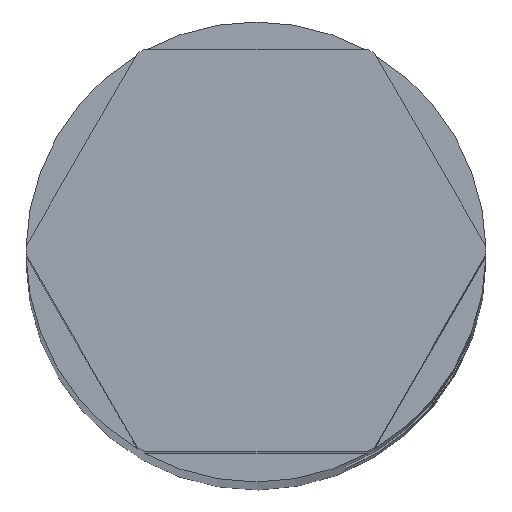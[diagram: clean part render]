
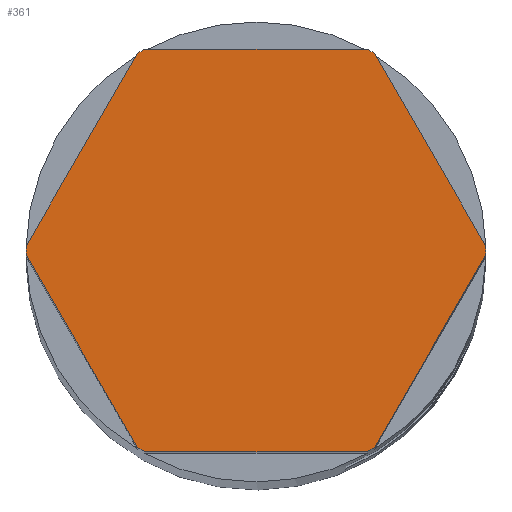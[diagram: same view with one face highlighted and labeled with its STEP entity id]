
A CAD part, top view. The second image highlights one B-rep face of the part: STEP entity #361.
In plain terms, the highlighted planar face has unit normal (0, 0, 1).
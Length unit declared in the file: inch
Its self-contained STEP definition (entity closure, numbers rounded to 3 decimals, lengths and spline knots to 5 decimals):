
#25=CIRCLE('',#384,0.25);
#26=CIRCLE('',#385,0.25);
#27=CIRCLE('',#386,0.25);
#28=CIRCLE('',#387,0.25);
#29=CIRCLE('',#388,0.25);
#30=CIRCLE('',#389,0.25);
#52=FACE_OUTER_BOUND('',#74,.T.);
#74=EDGE_LOOP('',(#311,#312,#313,#314,#315,#316,#317,#318,#319,#320,#321,
#322));
#76=LINE('',#511,#110);
#80=LINE('',#520,#114);
#84=LINE('',#529,#118);
#88=LINE('',#538,#122);
#92=LINE('',#547,#126);
#97=LINE('',#570,#131);
#110=VECTOR('',#404,0.24206);
#114=VECTOR('',#410,0.24206);
#118=VECTOR('',#416,0.24206);
#122=VECTOR('',#422,0.24206);
#126=VECTOR('',#428,0.24206);
#131=VECTOR('',#459,0.24206);
#143=VERTEX_POINT('',#507);
#145=VERTEX_POINT('',#510);
#147=VERTEX_POINT('',#516);
#149=VERTEX_POINT('',#519);
#151=VERTEX_POINT('',#525);
#153=VERTEX_POINT('',#528);
#155=VERTEX_POINT('',#534);
#157=VERTEX_POINT('',#537);
#159=VERTEX_POINT('',#543);
#161=VERTEX_POINT('',#546);
#165=VERTEX_POINT('',#567);
#166=VERTEX_POINT('',#569);
#177=EDGE_CURVE('',#145,#143,#76,.T.);
#181=EDGE_CURVE('',#149,#147,#80,.T.);
#185=EDGE_CURVE('',#153,#151,#84,.T.);
#189=EDGE_CURVE('',#157,#155,#88,.T.);
#193=EDGE_CURVE('',#161,#159,#92,.T.);
#204=EDGE_CURVE('',#166,#165,#97,.T.);
#207=EDGE_CURVE('',#165,#145,#25,.T.);
#208=EDGE_CURVE('',#159,#166,#26,.T.);
#209=EDGE_CURVE('',#155,#161,#27,.T.);
#210=EDGE_CURVE('',#151,#157,#28,.T.);
#211=EDGE_CURVE('',#147,#153,#29,.T.);
#212=EDGE_CURVE('',#143,#149,#30,.T.);
#311=ORIENTED_EDGE('',*,*,#177,.T.);
#312=ORIENTED_EDGE('',*,*,#212,.T.);
#313=ORIENTED_EDGE('',*,*,#181,.T.);
#314=ORIENTED_EDGE('',*,*,#211,.T.);
#315=ORIENTED_EDGE('',*,*,#185,.T.);
#316=ORIENTED_EDGE('',*,*,#210,.T.);
#317=ORIENTED_EDGE('',*,*,#189,.T.);
#318=ORIENTED_EDGE('',*,*,#209,.T.);
#319=ORIENTED_EDGE('',*,*,#193,.T.);
#320=ORIENTED_EDGE('',*,*,#208,.T.);
#321=ORIENTED_EDGE('',*,*,#204,.T.);
#322=ORIENTED_EDGE('',*,*,#207,.T.);
#341=PLANE('',#398);
#361=ADVANCED_FACE('',(#52),#341,.T.);
#384=AXIS2_PLACEMENT_3D('',#575,#465,#466);
#385=AXIS2_PLACEMENT_3D('',#576,#467,#468);
#386=AXIS2_PLACEMENT_3D('',#577,#469,#470);
#387=AXIS2_PLACEMENT_3D('',#578,#471,#472);
#388=AXIS2_PLACEMENT_3D('',#579,#473,#474);
#389=AXIS2_PLACEMENT_3D('',#580,#475,#476);
#398=AXIS2_PLACEMENT_3D('',#607,#503,#504);
#404=DIRECTION('',(1.,0.,0.));
#410=DIRECTION('',(0.5,0.866,0.));
#416=DIRECTION('',(-0.5,0.866,0.));
#422=DIRECTION('',(-1.,0.,0.));
#428=DIRECTION('',(-0.5,-0.866,0.));
#459=DIRECTION('',(0.5,-0.866,0.));
#465=DIRECTION('center_axis',(0.,0.,1.));
#466=DIRECTION('ref_axis',(-1.,0.,0.));
#467=DIRECTION('center_axis',(0.,0.,1.));
#468=DIRECTION('ref_axis',(-1.,0.,0.));
#469=DIRECTION('center_axis',(0.,0.,1.));
#470=DIRECTION('ref_axis',(-1.,0.,0.));
#471=DIRECTION('center_axis',(0.,0.,1.));
#472=DIRECTION('ref_axis',(-1.,0.,0.));
#473=DIRECTION('center_axis',(0.,0.,1.));
#474=DIRECTION('ref_axis',(-1.,0.,0.));
#475=DIRECTION('center_axis',(0.,0.,1.));
#476=DIRECTION('ref_axis',(-1.,0.,0.));
#503=DIRECTION('center_axis',(0.,0.,1.));
#504=DIRECTION('ref_axis',(1.,0.,0.));
#507=CARTESIAN_POINT('',(0.12103,-0.21875,6.));
#510=CARTESIAN_POINT('',(-0.12103,-0.21875,6.));
#511=CARTESIAN_POINT('',(0.06315,-0.21875,6.));
#516=CARTESIAN_POINT('',(0.24996,-0.00456,6.));
#519=CARTESIAN_POINT('',(0.12893,-0.21419,6.));
#520=CARTESIAN_POINT('',(0.22102,-0.05469,6.));
#525=CARTESIAN_POINT('',(0.12893,0.21419,6.));
#528=CARTESIAN_POINT('',(0.24996,0.00456,6.));
#529=CARTESIAN_POINT('',(0.15787,0.16406,6.));
#534=CARTESIAN_POINT('',(-0.12103,0.21875,6.));
#537=CARTESIAN_POINT('',(0.12103,0.21875,6.));
#538=CARTESIAN_POINT('',(-0.06315,0.21875,6.));
#543=CARTESIAN_POINT('',(-0.24996,0.00456,6.));
#546=CARTESIAN_POINT('',(-0.12893,0.21419,6.));
#547=CARTESIAN_POINT('',(-0.22102,0.05469,6.));
#567=CARTESIAN_POINT('',(-0.12893,-0.21419,6.));
#569=CARTESIAN_POINT('',(-0.24996,-0.00456,6.));
#570=CARTESIAN_POINT('',(-0.15787,-0.16406,6.));
#575=CARTESIAN_POINT('Origin',(0.,0.,6.));
#576=CARTESIAN_POINT('Origin',(0.,0.,6.));
#577=CARTESIAN_POINT('Origin',(0.,0.,6.));
#578=CARTESIAN_POINT('Origin',(0.,0.,6.));
#579=CARTESIAN_POINT('Origin',(0.,0.,6.));
#580=CARTESIAN_POINT('Origin',(0.,0.,6.));
#607=CARTESIAN_POINT('Origin',(0.,0.,
6.));
